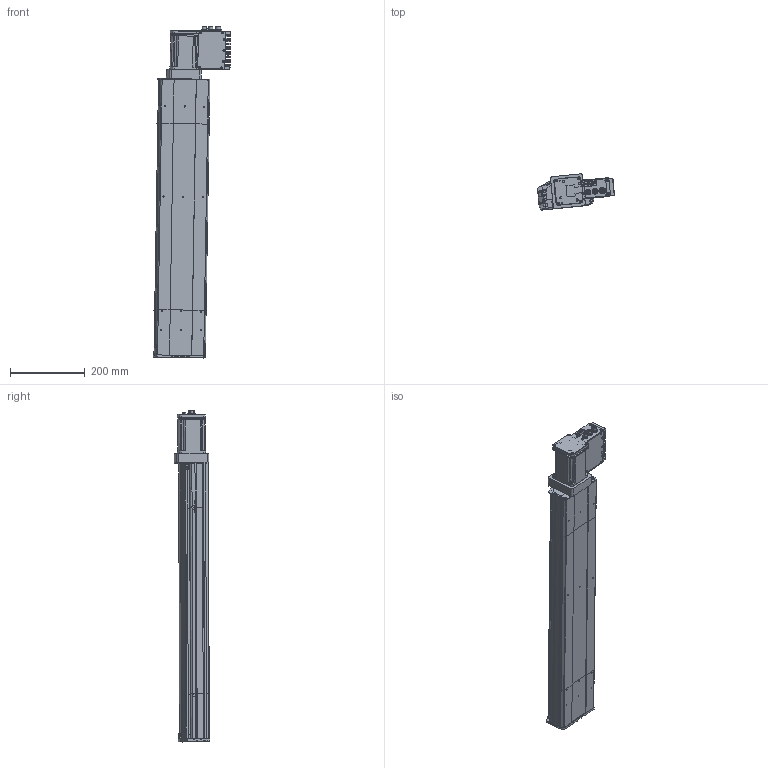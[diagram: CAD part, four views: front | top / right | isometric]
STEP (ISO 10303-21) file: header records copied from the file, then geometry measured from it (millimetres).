
FILE_DESCRIPTION (( 'STEP AP203' ), '1' );
FILE_NAME ('D14 TSH M4 MD L10 S600.STEP', '2012-10-08T07:52:06', ( '' ), ( '' ), 'SwSTEP 2.0', 'SolidWorks 2010', '' );
FILE_SCHEMA (( 'CONFIG_CONTROL_DESIGN' ));
Length unit declared in the file: millimetre
Products named in the file (22): Plaque racord D10.2_Default_2; corpl tail D14_Default_2; Tôle Arrière_2; Connecteur rond D10 3cts_2; Couvercle_2; Radiateur_2; Vis TF 3 torkx_2; plaque de  bout tail D14_Default_2; D14 TSH M4 MD L10 S600; corp head D14_Default_2; plaque de  bout head D14 MD_Default_2; Moteur_2; T犨e contre le moteur_2; Sub D 9cts_2; T犨e fond_2; Tôle latérale_2; Connecteur rond D12 4cts_2; Moteur 70BLDC90A_2; Colonnette_2; couvercle D14 head_Default_2; Pièce502; Pièce500
Assembly tree (49 placements, depth 3):
  D14 TSH M4 MD L10 S600
    corpl tail D14_Default_2
    Plaque racord D10.2_Default_2
    couvercle D14 head_Default_2  x2
    plaque de  bout tail D14_Default_2
    plaque de  bout head D14 MD_Default_2
    Pièce502
    Pièce500
    corp head D14_Default_2
    Moteur_2
      Vis TF 3 torkx_2  x26
      Tôle Arrière_2
      Tôle latérale_2  x2
      Sub D 9cts_2
      Radiateur_2
      Couvercle_2
      Connecteur rond D10 3cts_2  x2
      Moteur 70BLDC90A_2
      T犨e fond_2
      Colonnette_2
      Connecteur rond D12 4cts_2
      T犨e contre le moteur_2
Bounding box: 207.15 x 95.91 x 891.07 mm (x, y, z)
Volume: 2777123.6 mm3; surface area: 966182.7 mm2
Topology: 70 solids, 70 shells, 2391 faces, 6228 edges, 4107 vertices
Faces by surface type: plane 1275, cylinder 852, cone 134, bspline 130
Entity records: 63974 total; most frequent: CARTESIAN_POINT 20710, ORIENTED_EDGE 8414, DIRECTION 8094, EDGE_CURVE 4207, VERTEX_POINT 2781, VECTOR 2772, LINE 2772, AXIS2_PLACEMENT_3D 2661
